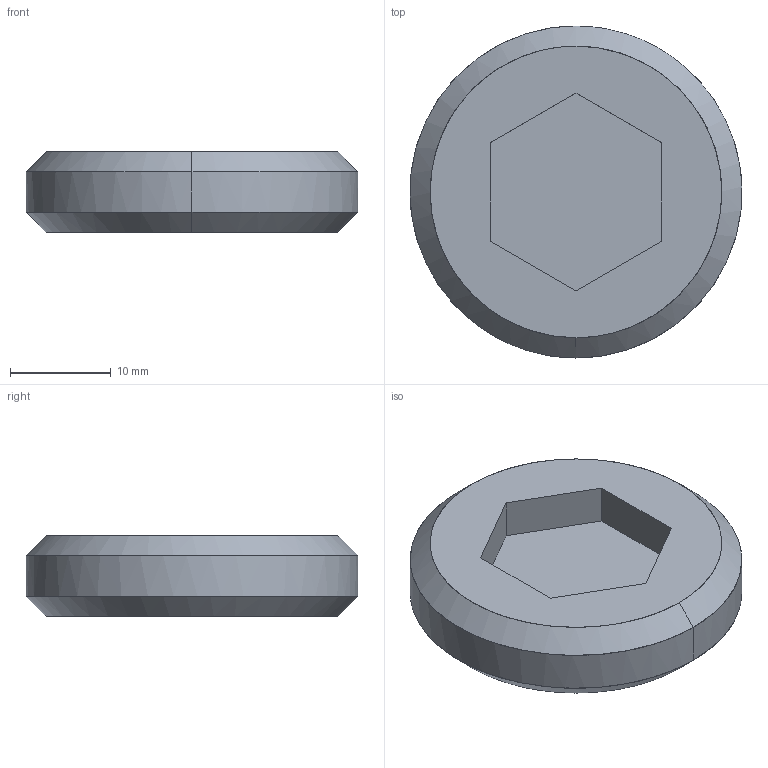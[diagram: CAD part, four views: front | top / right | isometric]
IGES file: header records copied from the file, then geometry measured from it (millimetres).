
Global section: file name: E:\UnigraphicsGraphicData\MISUMI_PRESS-PARTS\IGES\3d_msws33-8_00528_r00.igs; native system: NX V5.0; preprocessor: UGS NX IGES V5.0; author: MISUMI; date: 20110105.161526; units: millimetre
Bounding box: 32.98 x 33 x 8 mm (x, y, z)
Surface area: 2522.5 mm2 (no closed solid volume)
Topology: 0 solids, 0 shells, 15 faces, 92 edges, 92 vertices
Faces by surface type: bspline 15
